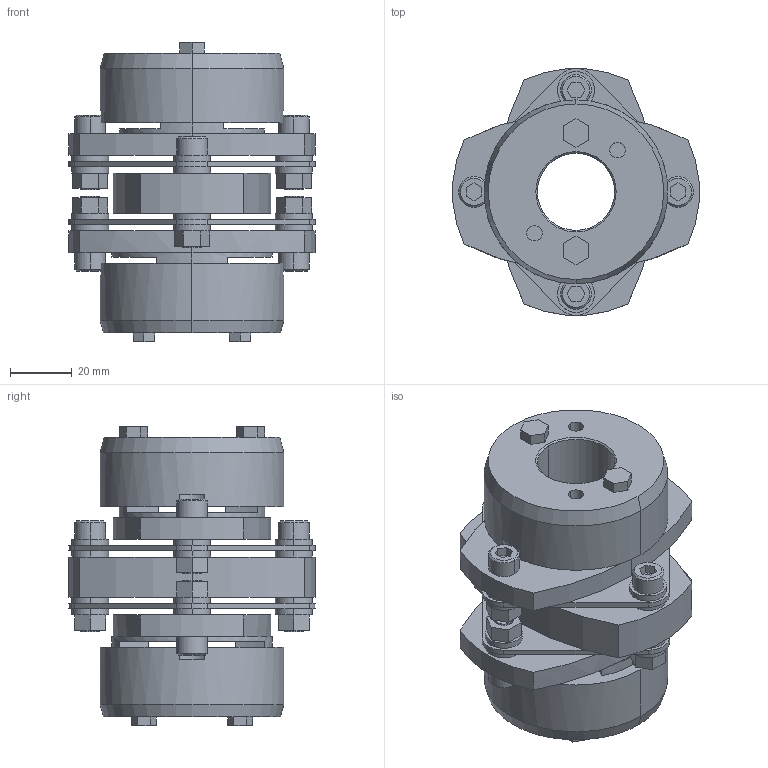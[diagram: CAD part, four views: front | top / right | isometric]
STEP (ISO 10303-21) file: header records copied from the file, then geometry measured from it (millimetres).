
FILE_DESCRIPTION((''),'2;1');
FILE_NAME('LCD-80T7-25×32.stp','2011-09-15T15:49:58',(''),(''),'AutoCAD STEP 2000i','AutoCAD 2000i',', , ');
FILE_SCHEMA(('CONFIG_CONTROL_DESIGN'));
Length unit declared in the file: millimetre
Products named in the file (13): LCD-80T7-24×32; 忣兜1; LC80T7-T032; LC80T7-T030; LC80T7-T028; LC80T7-T024-1; LC80T7-T024; LC80T7-T022; LC80T7-T019-1; LC80T7-T019; LC80T7-T017-1; LC80T7-T017; LCD80-ITA
Assembly tree (12 placements, depth 2):
  LCD-80T7-24×32
    忣兜1
    LC80T7-T032
    LC80T7-T030
    LC80T7-T028
    LC80T7-T024-1
    LC80T7-T024
    LC80T7-T022
    LC80T7-T019-1
    LC80T7-T019
    LC80T7-T017-1
    LC80T7-T017
    LCD80-ITA
Bounding box: 80 x 79.95 x 96.8 mm (x, y, z)
Volume: 189580.9 mm3; surface area: 59242.4 mm2
Topology: 1 solids, 1 shells, 331 faces, 812 edges, 532 vertices
Faces by surface type: plane 183, cylinder 124, cone 24
Entity records: 10121 total; most frequent: DIRECTION 1804, CARTESIAN_POINT 1688, ORIENTED_EDGE 1624, EDGE_CURVE 812, AXIS2_PLACEMENT_3D 648, VERTEX_POINT 532, VECTOR 508, LINE 508
